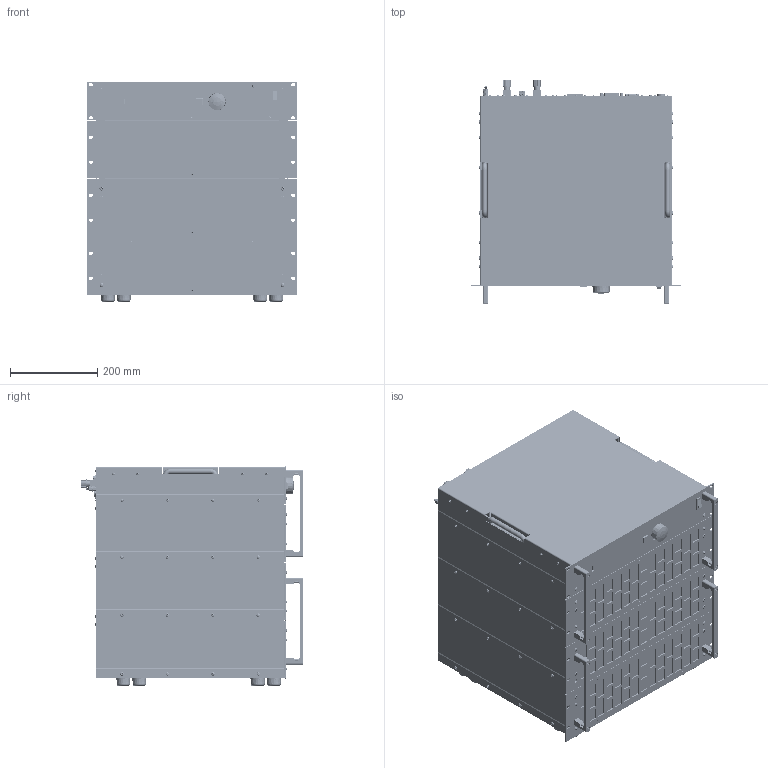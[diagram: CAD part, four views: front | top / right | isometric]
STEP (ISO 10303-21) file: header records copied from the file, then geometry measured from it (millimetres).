
FILE_DESCRIPTION(('STEP AP214'),'1');
FILE_NAME('QL_M31_19Z_11HE_BPK4_30L_3D_01.step','2022-03-16T06:39:55',(' '),(' '),'Spatial InterOp 3D',' ',' ');
FILE_SCHEMA(('AUTOMOTIVE_DESIGN { 1 0 10303 214 1 1 1 1 }'));
Length unit declared in the file: millimetre
Products named in the file (40): 3HE_Leistungsteil_mit_Gummifüssen_3D_01; *U404; *U405; *U406; *U415; AutoCreatedBlock_4321; 3HE_Leistungsteil_3D_01; *U715; *U716; *U717; AutoCreatedBlock_4347; DIN 966-A; Steuereinheit_BPK4_30L_mit_BG452_3D_01; 2121_Steuerteil_modular_Seitenteil_links_3D_02; 2122_Steuerteil_modular_Seitenteil_rechts_3D_02; A$C5EF2ED09; 3xM2.5_5x5x12; AutoCreatedBlock_4367; A$C6092449D; Frontplatte_5HE_Steuerteil_mit_Einbauten_3D; A$C60925E47; A$C60A76697; 2246_QL Rückwand Steuerteil 5HE_mit_Einbauten_3D_01; *U305; *U306; *U307; AutoCreatedBlock_4379; 2257_QL_IO Panel Standard_3D_01; 2084_IO-Port Abdeckung_3D_01; *U679; *U680; *U681; *U682; *U683; BG452_mit_MT1955_3D_01; *U685; AutoCreatedBlock_4401; AutoCreatedBlock_4357; AutoCreatedBlock_4317
Assembly tree (153 placements, depth 4):
  (unnamed)
    3HE_Leistungsteil_mit_Gummifüssen_3D_01
      *U404  x10
      *U405  x6
      *U406  x6
      *U415  x6
      AutoCreatedBlock_4321
    3HE_Leistungsteil_3D_01  x2
      *U715
      *U716
      *U717
      AutoCreatedBlock_4347
    DIN 966-A  x8
    Steuereinheit_BPK4_30L_mit_BG452_3D_01
      2121_Steuerteil_modular_Seitenteil_links_3D_02
      2122_Steuerteil_modular_Seitenteil_rechts_3D_02
      A$C5EF2ED09
        3xM2.5_5x5x12  x2
        AutoCreatedBlock_4367
      A$C6092449D
      Frontplatte_5HE_Steuerteil_mit_Einbauten_3D
      A$C60925E47
      A$C60A76697
      2246_QL Rückwand Steuerteil 5HE_mit_Einbauten_3D_01
        *U305
        *U306  x2
        *U307  x3
        AutoCreatedBlock_4379
      2257_QL_IO Panel Standard_3D_01
      2084_IO-Port Abdeckung_3D_01  x2
      *U679  x17
      *U680  x9
      *U681  x26
      *U682  x2
      *U683  x4
      BG452_mit_MT1955_3D_01
        *U685  x2
        AutoCreatedBlock_4401
      AutoCreatedBlock_4357
    AutoCreatedBlock_4317
Bounding box: 482.61 x 511.97 x 504.57 mm (x, y, z)
Volume: 42914368.2 mm3; surface area: 5954926.4 mm2
Topology: 443 solids, 1212 shells, 30265 faces, 77613 edges, 49540 vertices
Faces by surface type: plane 13646, cone 11001, cylinder 4516, torus 471, sphere 340, bspline 269, extrusion 22
Entity records: 841459 total; most frequent: CARTESIAN_POINT 154122, DIRECTION 110819, ORIENTED_EDGE 103142, EDGE_CURVE 52977, AXIS2_PLACEMENT_3D 38090, VECTOR 34639, LINE 34617, VERTEX_POINT 33592
